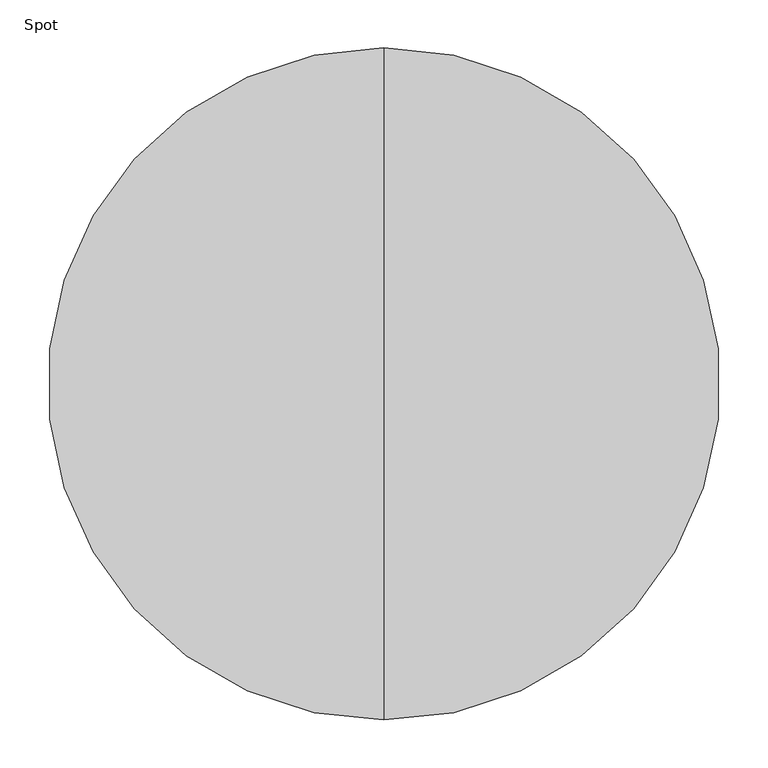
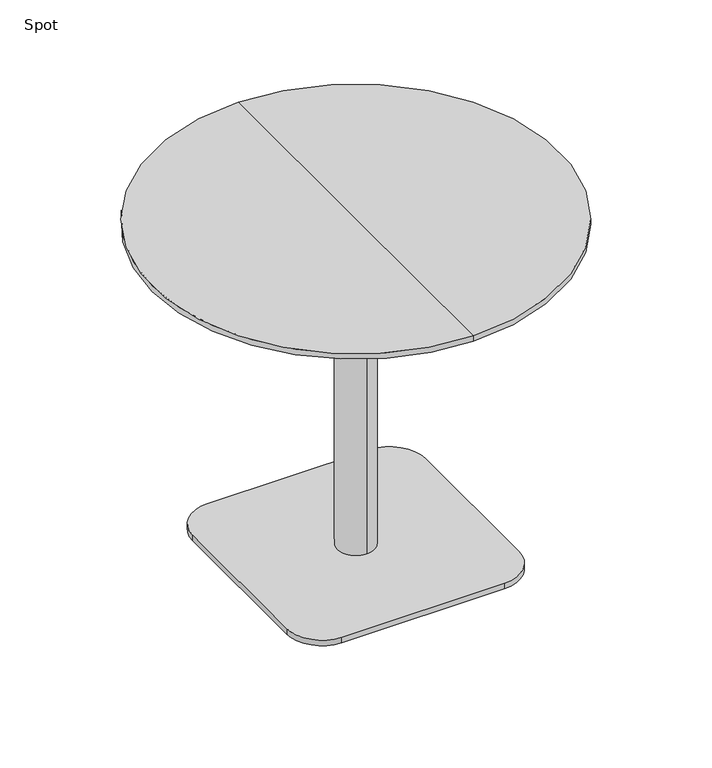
"""IFC4 building model written with IfcOpenShell, lengths in millimetres: furniture geometry, Spot : ø70x60s."""

import ifcopenshell
import ifcopenshell.guid

model = None  # the IFC model being written
_history = None  # IfcOwnerHistory: only IFC2X3 demands one
_inside = {}  # id of a spatial element -> (the spatial element, [elements in it])
_under = {}  # id of a project, library or spatial element -> (it, [spatial elements below it])
_declared = {}  # id of a project -> (the project, [libraries it declares])
_typed = {}  # id of a type object -> (the type object, [elements of that type])
_made_of = {}  # id of a material, layer set ... -> (it, [elements and type objects made of it])


def new_model(schema):
    """Start an empty IFC model of exactly this schema.

    Asked for "IFC4X3", IfcOpenShell would pick the latest addendum, in which some entities
    have other attributes; the version numbers below select the first issue.
    IFC2X3 requires an IfcOwnerHistory on every rooted entity: one is made here for all.
    """
    global model, _history
    if schema == "IFC4X3":
        model = ifcopenshell.file(schema_version=(4, 3, 0, 0))
    else:
        model = ifcopenshell.file(schema=schema)
    _inside.clear()
    _under.clear()
    _declared.clear()
    _typed.clear()
    _made_of.clear()
    _history = None
    if model.schema == "IFC2X3":
        org = make("IfcOrganization", Name="unknown")
        user = make(
            "IfcPersonAndOrganization",
            ThePerson=make("IfcPerson", FamilyName="unknown"),
            TheOrganization=org,
        )
        app = make(
            "IfcApplication",
            ApplicationDeveloper=org,
            Version="unknown",
            ApplicationFullName="unknown",
            ApplicationIdentifier="unknown",
        )
        _history = make(
            "IfcOwnerHistory",
            OwningUser=user,
            OwningApplication=app,
            ChangeAction="ADDED",
            CreationDate=0,
        )
    return model


def make(cls, **values):
    """One entity of the class cls with the attributes given. An attribute that is None is left unset."""
    return model.create_entity(
        cls, **{name: value for name, value in values.items() if value is not None}
    )


def rooted(cls, **values):
    """An entity with a GlobalId (a new one), such as an element, a storey or a relation."""
    return make(cls, GlobalId=ifcopenshell.guid.new(), OwnerHistory=_history, **values)


def si_unit(unit_type, name, prefix=None):
    """IfcSIUnit, for example si_unit("LENGTHUNIT", "METRE", prefix="MILLI")."""
    return make("IfcSIUnit", UnitType=unit_type, Prefix=prefix, Name=name)


def assignment(units):
    """IfcUnitAssignment: the units of a project."""
    return None if units is None else make("IfcUnitAssignment", Units=units)


def point(xyz):
    """IfcCartesianPoint."""
    return None if xyz is None else make("IfcCartesianPoint", Coordinates=xyz)


def direction(xyz):
    """IfcDirection."""
    return None if xyz is None else make("IfcDirection", DirectionRatios=xyz)


def frame(location, z_axis=None, x_axis=None):
    """IfcAxis2Placement3D, a coordinate frame: its origin and axes. An axis left out is left unset."""
    return make(
        "IfcAxis2Placement3D",
        Location=point(location),
        Axis=direction(z_axis),
        RefDirection=direction(x_axis),
    )


def frame_2d(location, x_axis=None):
    """IfcAxis2Placement2D, a coordinate frame in the plane: its origin and x axis."""
    return make(
        "IfcAxis2Placement2D", Location=point(location), RefDirection=direction(x_axis)
    )


def origin():
    """The frame at (0, 0, 0) with its axes left unset."""
    return frame((0.0, 0.0, 0.0))


def origin_with_axes():
    """The frame at (0, 0, 0) with the z axis (0, 0, 1) and the x axis (1, 0, 0) written out."""
    return frame((0.0, 0.0, 0.0), z_axis=(0.0, 0.0, 1.0), x_axis=(1.0, 0.0, 0.0))


def place(relative_to, where):
    """IfcLocalPlacement: puts the frame where relative to a parent placement (None: the world)."""
    return make(
        "IfcLocalPlacement", PlacementRelTo=relative_to, RelativePlacement=where
    )


def context(
    kind, dimensions, precision=None, world=None, true_north=None, identifier=None
):
    """IfcGeometricRepresentationContext, for example the 3D "Model" context."""
    return make(
        "IfcGeometricRepresentationContext",
        ContextIdentifier=identifier,
        ContextType=kind,
        CoordinateSpaceDimension=dimensions,
        Precision=precision,
        WorldCoordinateSystem=world,
        TrueNorth=true_north,
    )


def project(units=None, contexts=None):
    """IfcProject with its units and contexts."""
    return rooted(
        "IfcProject",
        Name="project",
        RepresentationContexts=contexts,
        UnitsInContext=assignment(units),
    )


def spatial(cls, under=None, at=None, **own):
    """A site, building, storey or space (cls), placed at a placement, below another one or the project."""
    s = rooted(cls, ObjectPlacement=at, **own)
    if under is not None:
        _under.setdefault(under.id(), (under, []))[1].append(s)
    return s


def polyline(points):
    """IfcPolyline through the points."""
    return make("IfcPolyline", Points=[point(p) for p in points])


def circle_curve(where, radius):
    """IfcCircle in the frame where."""
    return make("IfcCircle", Position=where, Radius=radius)


def trimmed(basis, trim1, trim2, sense, master):
    """IfcTrimmedCurve: the piece of a basis curve between two trims."""
    return make(
        "IfcTrimmedCurve",
        BasisCurve=basis,
        Trim1=trim1,
        Trim2=trim2,
        SenseAgreement=sense,
        MasterRepresentation=master,
    )


def segment(curve, same_sense, transition):
    """IfcCompositeCurveSegment."""
    return make(
        "IfcCompositeCurveSegment",
        Transition=transition,
        SameSense=same_sense,
        ParentCurve=curve,
    )


def composite_curve(segments, self_intersect=None):
    """IfcCompositeCurve: segments joined end to end."""
    return make("IfcCompositeCurve", Segments=segments, SelfIntersect=self_intersect)


def outline(outer, holes=None, kind="AREA"):
    """IfcArbitraryClosedProfileDef: a profile drawn as a closed curve; with holes, ...WithVoids."""
    if holes is None:
        return make("IfcArbitraryClosedProfileDef", ProfileType=kind, OuterCurve=outer)
    return make(
        "IfcArbitraryProfileDefWithVoids",
        ProfileType=kind,
        OuterCurve=outer,
        InnerCurves=holes,
    )


def extrude(swept, where, along, depth):
    """IfcExtrudedAreaSolid: the profile swept, set in the frame where, extruded along a direction by depth."""
    return make(
        "IfcExtrudedAreaSolid",
        SweptArea=swept,
        Position=where,
        ExtrudedDirection=direction(along),
        Depth=depth,
    )


def shape(context_of_items, identifier, shape_type, items):
    """IfcShapeRepresentation: the items that make up one representation, for example the "Body"."""
    return make(
        "IfcShapeRepresentation",
        ContextOfItems=context_of_items,
        RepresentationIdentifier=identifier,
        RepresentationType=shape_type,
        Items=items,
    )


def source(mapping_origin, context_of_items, identifier, shape_type, items):
    """IfcRepresentationMap: a shape defined once, which mapped items show again and again."""
    return make(
        "IfcRepresentationMap",
        MappingOrigin=mapping_origin,
        MappedRepresentation=shape(context_of_items, identifier, shape_type, items),
    )


def transform(
    local_origin,
    x_axis=None,
    y_axis=None,
    z_axis=None,
    scale=None,
    scale2=None,
    scale3=None,
    uniform=True,
):
    """IfcCartesianTransformationOperator3D, or its non-uniform kind. x_axis, y_axis, z_axis: its Axis1, 2, 3."""
    if uniform:
        return make(
            "IfcCartesianTransformationOperator3D",
            Axis1=direction(x_axis),
            Axis2=direction(y_axis),
            LocalOrigin=point(local_origin),
            Scale=scale,
            Axis3=direction(z_axis),
        )
    return make(
        "IfcCartesianTransformationOperator3DnonUniform",
        Axis1=direction(x_axis),
        Axis2=direction(y_axis),
        LocalOrigin=point(local_origin),
        Scale=scale,
        Axis3=direction(z_axis),
        Scale2=scale2,
        Scale3=scale3,
    )


def mapped(mapping_source, mapping_target):
    """IfcMappedItem: shows the shape of a source again, moved by a transform."""
    return make(
        "IfcMappedItem", MappingSource=mapping_source, MappingTarget=mapping_target
    )


def made_of(thing, what):
    """Note that an element or type object is made of a material, layer set ...; save() writes the relation."""
    if what is not None:
        _made_of.setdefault(what.id(), (what, []))[1].append(thing)
    return thing


def element(
    cls,
    number,
    at=None,
    inside=None,
    cuts=None,
    type_object=None,
    material=None,
    context=None,
    identifier="Body",
    shape_type=None,
    held_by="IfcProductDefinitionShape",
    body=None,
    shapes=None,
    **own,
):
    """One element of the class cls, such as IfcWall. Its Tag is "e" and its number.

    at: its placement. inside: the storey or other place that contains it. cuts: it is an
    opening in that element (IfcRelVoidsElement). A single representation is given by context,
    identifier, shape_type and body (its items); several are given by shapes. held_by: the class
    of the entity that holds the representations. save() writes the other relations.
    """
    e = rooted(cls, Tag="e%d" % number, ObjectPlacement=at, **own)
    if body is not None:
        shapes = [shape(context, identifier, shape_type, body)]
    if shapes is not None:
        e.Representation = make(held_by, Representations=shapes)
    if inside is not None:
        _inside.setdefault(inside.id(), (inside, []))[1].append(e)
    if cuts is not None:
        rooted(
            "IfcRelVoidsElement", RelatingBuildingElement=cuts, RelatedOpeningElement=e
        )
    if type_object is not None:
        _typed.setdefault(type_object.id(), (type_object, []))[1].append(e)
    return made_of(e, material)


def aggregate(whole, parts):
    """IfcRelAggregates: a whole, such as a stair, and the parts it consists of."""
    return rooted("IfcRelAggregates", RelatingObject=whole, RelatedObjects=parts)


def save(model, path):
    """Write the relations noted so far, then the file.

    IfcRelAggregates (storeys below a building ...), IfcRelContainedInSpatialStructure (elements
    in a storey), IfcRelDefinesByType, IfcRelAssociatesMaterial and IfcRelDeclares: one each for
    every whole, place, type object, material and project.
    """
    for whole, parts in _under.values():
        aggregate(whole, parts)
    for where, things in _inside.values():
        rooted(
            "IfcRelContainedInSpatialStructure",
            RelatedElements=things,
            RelatingStructure=where,
        )
    for kind, things in _typed.values():
        rooted("IfcRelDefinesByType", RelatedObjects=things, RelatingType=kind)
    for what, things in _made_of.values():
        rooted("IfcRelAssociatesMaterial", RelatedObjects=things, RelatingMaterial=what)
    for by, libraries in _declared.values():
        rooted("IfcRelDeclares", RelatingContext=by, RelatedDefinitions=libraries)
    model.write(path)


def plane_surface(at):
    """IfcPlane: the flat surface through the origin of the frame at, square to its z axis."""
    return make("IfcPlane", Position=at)


def cylinder_surface(at, radius):
    """IfcCylindricalSurface: all points at the distance radius from the z axis of the frame at."""
    return make("IfcCylindricalSurface", Position=at, Radius=radius)


def revolved_surface(curve, axis_point, axis_direction):
    """IfcSurfaceOfRevolution: the curve turned about the line through axis_point along axis_direction."""
    return make(
        "IfcSurfaceOfRevolution",
        SweptCurve=make("IfcArbitraryOpenProfileDef", ProfileType="CURVE", Curve=curve),
        AxisPosition=make("IfcAxis1Placement", Location=point(axis_point), Axis=direction(axis_direction)),
    )


def advanced_brep(points, edges, surfaces, faces):
    """IfcAdvancedBrep: a solid bounded by faces that lie on surfaces and meet in shared edges.

    An edge is (start, end): straight between two places in points (the first is 0);
    or (start, end, curve); or (start, end, curve, False) where it runs against its curve.
    A face is (place in surfaces, loops), or (place, loops, False) where it looks against
    its surface's normal. A loop lists edges by number (the first is 1), with a minus sign
    where the edge is run from its end to its start. The first loop is the outer one.
    """
    corners = [point(p) for p in points]
    vertices = [make("IfcVertexPoint", VertexGeometry=c) for c in corners]
    made = []
    for start, end, *more in edges:
        made.append(
            make(
                "IfcEdgeCurve",
                EdgeStart=vertices[start],
                EdgeEnd=vertices[end],
                EdgeGeometry=more[0] if more else make("IfcPolyline", Points=[corners[start], corners[end]]),
                SameSense=more[1] if len(more) > 1 else True,
            )
        )
    hull = []
    for where, loops, *sense in faces:
        bounds = []
        for j, loop in enumerate(loops):
            ring = [make("IfcOrientedEdge", EdgeElement=made[abs(k) - 1], Orientation=k > 0) for k in loop]
            bounds.append(
                make(
                    "IfcFaceOuterBound" if j == 0 else "IfcFaceBound",
                    Bound=make("IfcEdgeLoop", EdgeList=ring),
                    Orientation=True,
                )
            )
        hull.append(make("IfcAdvancedFace", Bounds=bounds, FaceSurface=surfaces[where], SameSense=sense[0] if sense else True))
    return make("IfcAdvancedBrep", Outer=make("IfcClosedShell", CfsFaces=hull))


def spot_dc8d1580(model_context):
    return source(origin(), model_context, "Body", "SolidModel", [
        advanced_brep(
        [(0.0, 350.0, 600.0), (0.0, -350.0, 600.0), (0.0, 0.0, 600.0), (0.0, 350.0, 590.25), (0.0, -350.0, 590.25), (0.0, 304.2823776, 578.0), (0.0, -304.2823776, 578.0), (0.0, 0.0, 578.0)],
        [
            (0, 1, circle_curve(frame((0.0, 0.0, 600.0), z_axis=(0.0, 0.0, 1.0), x_axis=(0.0, -1.0, 0.0)), 350.0)),
            (1, 2),
            (2, 0),
            (1, 0, circle_curve(frame((0.0, 0.0, 600.0), z_axis=(0.0, 0.0, 1.0), x_axis=(0.0, -1.0, 0.0)), 350.0)),
            (3, 4, circle_curve(frame((0.0, 0.0, 590.25), z_axis=(0.0, 0.0, 1.0), x_axis=(0.0, -1.0, 0.0)), 350.0)),
            (4, 1),
            (0, 3),
            (4, 3, circle_curve(frame((0.0, 0.0, 590.25), z_axis=(0.0, 0.0, 1.0), x_axis=(0.0, -1.0, 0.0)), 350.0)),
            (5, 6, circle_curve(frame((0.0, 0.0, 578.0), z_axis=(0.0, 0.0, 1.0), x_axis=(0.0, -1.0, 0.0)), 304.2823776)),
            (6, 4),
            (3, 5),
            (6, 5, circle_curve(frame((0.0, 0.0, 578.0), z_axis=(0.0, 0.0, 1.0), x_axis=(0.0, -1.0, 0.0)), 304.2823776)),
            (7, 6),
            (5, 7),
        ],
        [
            plane_surface(frame((0.0, 0.0, 600.0), z_axis=(0.0, 0.0, 1.0), x_axis=(0.0, -1.0, 0.0))),
            cylinder_surface(frame((0.0, 0.0, 680.0), z_axis=(0.0, 0.0, -1.0), x_axis=(0.0, -1.0, 0.0)), 350.0),
            revolved_surface(polyline([(0.0, -350.0, 590.25), (0.0, -304.2823776, 578.0)]), (0.0, 0.0, 680.0), (0.0, 0.0, -1.0)),
            plane_surface(frame((0.0, 0.0, 578.0), z_axis=(0.0, 0.0, -1.0), x_axis=(0.0, -1.0, 0.0))),
        ],
        [
            (0, [[1, 2, 3]]),
            (0, [[4, -3, -2]]),
            (1, [[5, 6, -1, 7]]),
            (1, [[8, -7, -4, -6]]),
            (2, [[9, 10, -5, 11]]),
            (2, [[12, -11, -8, -10]]),
            (3, [[13, -9, 14]]),
            (3, [[-14, -12, -13]]),
        ],
    ),
        extrude(outline(composite_curve([segment(trimmed(circle_curve(frame_2d((140.0, 140.0)), 60.0), [point((140.0, 200.0))], [point((200.0, 140.0))], False, "CARTESIAN"), True, "CONTINUOUS"), segment(polyline([(200.0, 140.0), (200.0, -140.0)]), True, "CONTINUOUS"), segment(trimmed(circle_curve(frame_2d((140.0, -140.0)), 60.0), [point((200.0, -140.0))], [point((140.0, -200.0))], False, "CARTESIAN"), True, "CONTINUOUS"), segment(polyline([(140.0, -200.0), (-140.0, -200.0)]), True, "CONTINUOUS"), segment(trimmed(circle_curve(frame_2d((-140.0, -140.0)), 60.0), [point((-140.0, -200.0))], [point((-200.0, -140.0))], False, "CARTESIAN"), True, "CONTINUOUS"), segment(polyline([(-200.0, -140.0), (-200.0, 140.0)]), True, "CONTINUOUS"), segment(trimmed(circle_curve(frame_2d((-140.0, 140.0)), 60.0), [point((-200.0, 140.0))], [point((-140.0, 200.0))], False, "CARTESIAN"), True, "CONTINUOUS"), segment(polyline([(-140.0, 200.0), (140.0, 200.0)]), True, "CONTINUOUS")], self_intersect=False)), origin_with_axes(), (0.0, 0.0, 1.0), 10.0),
        advanced_brep(
        [(0.0, 32.0, 10.0), (0.0, -32.0, 10.0), (0.0, -32.0, 547.406916), (0.0, 32.0, 547.406916), (0.0, 0.0, 10.0), (0.0, 150.0, 578.0), (0.0, -150.0, 578.0), (0.0, 0.0, 578.0), (0.0, 150.0, 566.7213673), (0.0, -150.0, 566.7213673)],
        [
            (0, 1, circle_curve(frame((0.0, 0.0, 10.0), z_axis=(0.0, 0.0, 1.0), x_axis=(0.0, -1.0, 0.0)), 32.0)),
            (1, 2),
            (2, 3, circle_curve(frame((0.0, 0.0, 547.406916), z_axis=(0.0, 0.0, -1.0), x_axis=(0.0, -1.0, 0.0)), 32.0)),
            (3, 0),
            (1, 0, circle_curve(frame((0.0, 0.0, 10.0), z_axis=(0.0, 0.0, 1.0), x_axis=(0.0, -1.0, 0.0)), 32.0)),
            (3, 2, circle_curve(frame((0.0, 0.0, 547.406916), z_axis=(0.0, 0.0, -1.0), x_axis=(0.0, -1.0, 0.0)), 32.0)),
            (4, 1),
            (0, 4),
            (5, 6, circle_curve(frame((0.0, 0.0, 578.0), z_axis=(0.0, 0.0, 1.0), x_axis=(0.0, -1.0, 0.0)), 150.0)),
            (6, 7),
            (7, 5),
            (6, 5, circle_curve(frame((0.0, 0.0, 578.0), z_axis=(0.0, 0.0, 1.0), x_axis=(0.0, -1.0, 0.0)), 150.0)),
            (8, 9, circle_curve(frame((0.0, 0.0, 566.7213673), z_axis=(0.0, 0.0, 1.0), x_axis=(0.0, -1.0, 0.0)), 150.0)),
            (9, 6),
            (5, 8),
            (9, 8, circle_curve(frame((0.0, 0.0, 566.7213673), z_axis=(0.0, 0.0, 1.0), x_axis=(0.0, -1.0, 0.0)), 150.0)),
            (2, 9),
            (8, 3),
        ],
        [
            cylinder_surface(frame((0.0, 0.0, 940.0), z_axis=(0.0, 0.0, -1.0), x_axis=(0.0, -1.0, 0.0)), 32.0),
            plane_surface(frame((0.0, 0.0, 10.0), z_axis=(0.0, 0.0, -1.0), x_axis=(0.0, -1.0, 0.0))),
            plane_surface(frame((0.0, 0.0, 578.0), z_axis=(0.0, 0.0, 1.0), x_axis=(0.0, -1.0, 0.0))),
            cylinder_surface(frame((0.0, 0.0, 940.0), z_axis=(0.0, 0.0, -1.0), x_axis=(0.0, -1.0, 0.0)), 150.0),
            revolved_surface(polyline([(0.0, -150.0, 566.7213673), (0.0, -32.0, 547.406916)]), (0.0, 0.0, 940.0), (0.0, 0.0, -1.0)),
        ],
        [
            (0, [[1, 2, 3, 4]]),
            (0, [[5, -4, 6, -2]]),
            (1, [[7, -1, 8]]),
            (1, [[-8, -5, -7]]),
            (2, [[9, 10, 11]]),
            (2, [[12, -11, -10]]),
            (3, [[13, 14, -9, 15]]),
            (3, [[16, -15, -12, -14]]),
            (4, [[-3, 17, -13, 18]]),
            (4, [[-6, -18, -16, -17]]),
        ],
    ),
        extrude(outline(polyline([(0.0, 0.0), (-20.0, 0.0), (-20.0, 20.0), (0.0, 20.0), (0.0, 0.0)])), origin_with_axes(), (0.0, 0.0, 1.0), 10.0),
    ])


if __name__ == "__main__":
    model = new_model("IFC4")
    model_context = context("Model", 3, world=origin())
    ifc_project = project(units=[si_unit("LENGTHUNIT", "METRE", prefix="MILLI")], contexts=[model_context])
    site = spatial("IfcSite", under=ifc_project)
    building = spatial("IfcBuilding", under=site)
    placement = place(None, origin())
    spot_shape = spot_dc8d1580(model_context)
    element("IfcFurniture", 1, ObjectType="Spot : ø70x60s", at=placement, inside=building, context=model_context, shape_type="MappedRepresentation", body=[
        mapped(spot_shape, transform((0.0, 0.0, 0.0), x_axis=(1.0, 0.0, 0.0), y_axis=(0.0, 1.0, 0.0), z_axis=(0.0, 0.0, 1.0))),
    ])
    save(model, "model.ifc")
